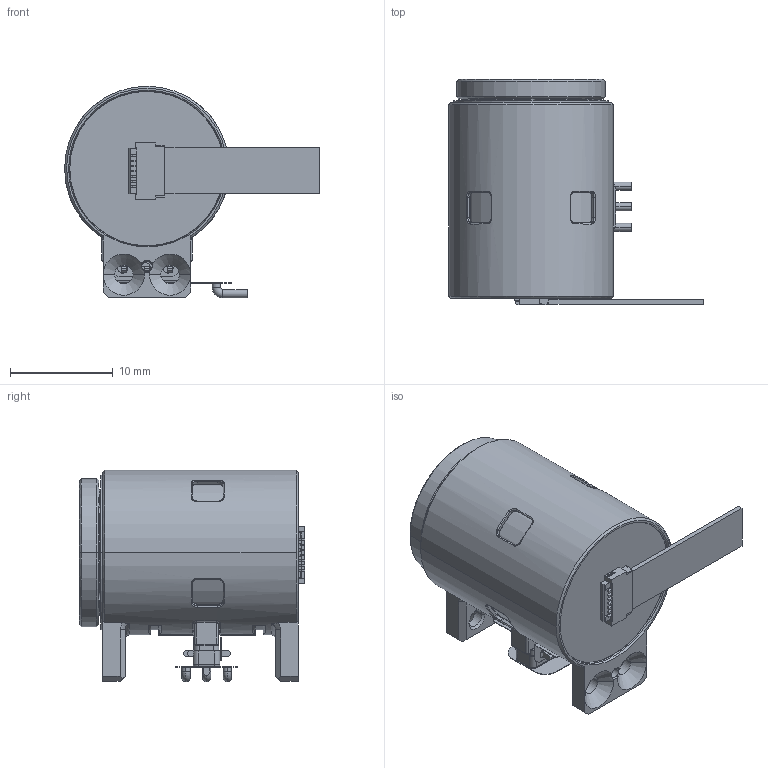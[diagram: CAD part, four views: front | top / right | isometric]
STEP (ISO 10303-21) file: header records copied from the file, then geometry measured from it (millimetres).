
FILE_DESCRIPTION((''),'2;1');
FILE_NAME('X16S-UM304050-MH-1_ASM','2026-09-01T10:18:37',('wenbo'),(''),'CREO PARAMETRIC BY PTC INC, 2024325','CREO PARAMETRIC BY PTC INC, 2024325','');
FILE_SCHEMA(('CONFIG_CONTROL_DESIGN'));
Length unit declared in the file: millimetre
Products named in the file (28): 083000000001_36LAYER_66_1_1_1_4; ZUZHUANG_ASM_3_ASM_1_ASM_1_AS_3_ASM; YUANZHU1_1_1_1_1_1_2_3_1; 025000000002_AF0_1_1_1_1_2_1__3; 025300000001_1_1_1_1_2_1_1_1__3; 025000000001_ASM_1_1_ASM_1_1__4_ASM; JIECHAZUO_ASM_2_ASM_1_ASM_1_A_3_ASM; BANJINFPC2_6_1_1_1_1_2_3_1; FPCBANJIN_16_1_1_1_1_2_3_1; DIANXIAN_3_1_1_1_1_2_3_1; YUANZHU_4_1_1_1_1_2_3_1; ZUZHUANG_ASM_ASM_1_ASM_1_ASM__3_ASM; 16MML_ASM_1_ASM_1_ASM_1_1_2_3_A_ASM; PCB_1_1_1_2_3_1; CHANGTIAO_1_1_1_2_3_1; 16MML_ASM_1_ASM_1_1_2_3_ASM_1_ASM; XIAO_1_1_1_1_2_3_1; X16L-UM50-MH-1_ASM_1_1_2_3_ASM__ASM; BEARING_1; ASM0004_ASM_1_ASM; 094200000008; 200; 400; 100; 300; FPC-SMD_0510-GX-7PWB-GF-RB_FP_1_ASM; FPC-SMD_0510-GX-7PWB-GF-RB_FPC-_ASM; X16S-UM304050-MH-1_ASM
Assembly tree (39 placements, depth 9):
  X16S-UM304050-MH-1_ASM
    ASM0004_ASM_1_ASM
      X16L-UM50-MH-1_ASM_1_1_2_3_ASM__ASM
        16MML_ASM_1_ASM_1_1_2_3_ASM_1_ASM
          16MML_ASM_1_ASM_1_ASM_1_1_2_3_A_ASM
            ZUZHUANG_ASM_ASM_1_ASM_1_ASM__3_ASM
              ZUZHUANG_ASM_3_ASM_1_ASM_1_AS_3_ASM
                083000000001_36LAYER_66_1_1_1_4
              YUANZHU1_1_1_1_1_1_2_3_1
              JIECHAZUO_ASM_2_ASM_1_ASM_1_A_3_ASM
                025000000001_ASM_1_1_ASM_1_1__4_ASM
                  025000000002_AF0_1_1_1_1_2_1__3
                  025300000001_1_1_1_1_2_1_1_1__3  x3
              BANJINFPC2_6_1_1_1_1_2_3_1
              FPCBANJIN_16_1_1_1_1_2_3_1  x2
              DIANXIAN_3_1_1_1_1_2_3_1  x3
              YUANZHU_4_1_1_1_1_2_3_1
          PCB_1_1_1_2_3_1
          CHANGTIAO_1_1_1_2_3_1
        XIAO_1_1_1_1_2_3_1  x8
      BEARING_1
    094200000008
    FPC-SMD_0510-GX-7PWB-GF-RB_FPC-_ASM
      FPC-SMD_0510-GX-7PWB-GF-RB_FP_1_ASM
        200
        400
        100
        300
Bounding box: 24.75 x 21.87 x 20.55 mm (x, y, z)
Volume: 3462 mm3; surface area: 5279.6 mm2
Topology: 29 solids, 33 shells, 1311 faces, 3577 edges, 2337 vertices
Faces by surface type: plane 579, cylinder 389, torus 113, extrusion 94, cone 72, bspline 60, sphere 4
Entity records: 43575 total; most frequent: CARTESIAN_POINT 12495, ORIENTED_EDGE 6482, DIRECTION 6329, EDGE_CURVE 3269, AXIS2_PLACEMENT_3D 2244, VERTEX_POINT 2145, VECTOR 1841, LINE 1747
